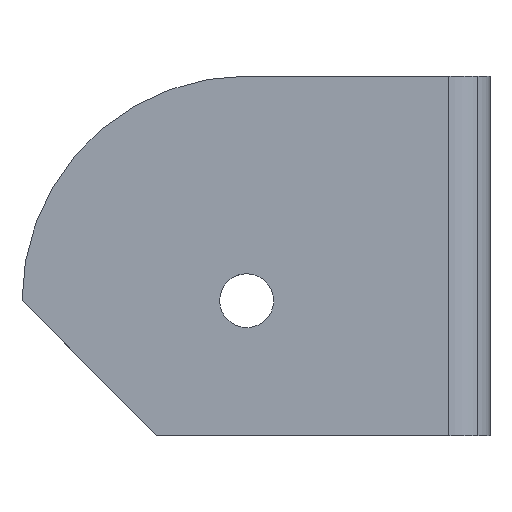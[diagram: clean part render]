
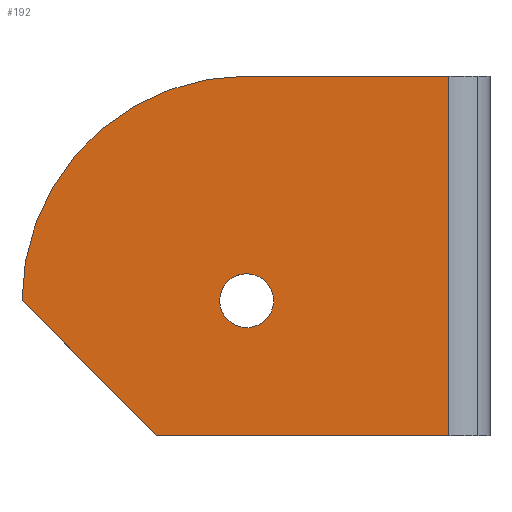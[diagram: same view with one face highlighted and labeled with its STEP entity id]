
A CAD part, top view. The second image highlights one B-rep face of the part: STEP entity #192.
In plain terms, the highlighted planar face has unit normal (0, 0, 1).
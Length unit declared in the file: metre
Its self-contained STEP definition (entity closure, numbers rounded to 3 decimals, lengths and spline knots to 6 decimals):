
#192=ADVANCED_FACE('0:45',(#506,#507),#508,.F.);
#248=EDGE_CURVE('',#598,#599,#600,.T.);
#252=EDGE_CURVE('0:222',#603,#606,#607,.T.);
#340=EDGE_CURVE('0:207',#739,#736,#740,.T.);
#344=EDGE_CURVE('0:213',#603,#744,#745,.T.);
#346=EDGE_CURVE('0:216',#744,#739,#747,.T.);
#348=EDGE_CURVE('0:219',#606,#736,#749,.T.);
#350=EDGE_CURVE('0:228',#751,#598,#752,.T.);
#352=EDGE_CURVE('',#599,#751,#754,.T.);
#506=FACE_OUTER_BOUND('',#999,.T.);
#507=FACE_BOUND('',#1000,.T.);
#508=PLANE('',#1001);
#598=VERTEX_POINT('',#1097);
#599=VERTEX_POINT('',#1098);
#600=CIRCLE('',#1099,0.01524);
#603=VERTEX_POINT('',#1103);
#606=VERTEX_POINT('',#1107);
#607=LINE('',#1108,#1109);
#736=VERTEX_POINT('',#1317);
#739=VERTEX_POINT('',#1322);
#740=LINE('',#1323,#1324);
#744=VERTEX_POINT('',#1331);
#745=LINE('',#1332,#1333);
#747=CIRCLE('',#1336,0.127);
#749=LINE('',#1339,#1340);
#751=VERTEX_POINT('',#1343);
#752=CIRCLE('',#1344,0.01524);
#754=CIRCLE('',#1347,0.01524);
#999=EDGE_LOOP('',(#1666,#1667,#1668,#1669,#1670));
#1000=EDGE_LOOP('',(#1671,#1672,#1673));
#1001=AXIS2_PLACEMENT_3D('',#1674,#1675,#1676);
#1097=CARTESIAN_POINT('',(-0.137776,-0.137776,0.141721));
#1098=CARTESIAN_POINT('',(-0.116224,-0.116224,0.141721));
#1099=AXIS2_PLACEMENT_3D('',#1916,#1917,#1918);
#1103=CARTESIAN_POINT('',(-0.0127,0.0,0.141721));
#1107=CARTESIAN_POINT('',(-0.0127,-0.2032,0.141721));
#1108=CARTESIAN_POINT('',(-0.0127,0.0,0.141721));
#1109=VECTOR('',#1922,1.0);
#1317=CARTESIAN_POINT('',(-0.1778,-0.2032,0.141721));
#1322=CARTESIAN_POINT('',(-0.254,-0.127,0.141721));
#1323=CARTESIAN_POINT('',(-0.17145,-0.20955,0.141721));
#1324=VECTOR('',#2006,1.0);
#1331=CARTESIAN_POINT('',(-0.127,0.,0.141721));
#1332=CARTESIAN_POINT('',(0.03175,0.0,0.141721));
#1333=VECTOR('',#2008,1.0);
#1336=AXIS2_PLACEMENT_3D('',#2009,#2010,#2011);
#1339=CARTESIAN_POINT('',(0.03175,-0.2032,0.141721));
#1340=VECTOR('',#2012,1.0);
#1343=CARTESIAN_POINT('',(-0.127,-0.11176,0.141721));
#1344=AXIS2_PLACEMENT_3D('',#2013,#2014,#2015);
#1347=AXIS2_PLACEMENT_3D('',#2016,#2017,#2018);
#1666=ORIENTED_EDGE('',*,*,#344,.T.);
#1667=ORIENTED_EDGE('',*,*,#346,.T.);
#1668=ORIENTED_EDGE('',*,*,#340,.T.);
#1669=ORIENTED_EDGE('',*,*,#348,.F.);
#1670=ORIENTED_EDGE('',*,*,#252,.F.);
#1671=ORIENTED_EDGE('',*,*,#350,.F.);
#1672=ORIENTED_EDGE('',*,*,#352,.F.);
#1673=ORIENTED_EDGE('',*,*,#248,.F.);
#1674=CARTESIAN_POINT('',(0.127,0.0,0.141721));
#1675=DIRECTION('',(0.0,0.0,-1.0));
#1676=DIRECTION('',(0.707,0.707,0.0));
#1916=CARTESIAN_POINT('',(-0.127,-0.127,0.141721));
#1917=DIRECTION('',(0.0,-0.0,1.0));
#1918=DIRECTION('',(0.707,0.707,0.0));
#1922=DIRECTION('',(0.0,-1.0,0.0));
#2006=DIRECTION('',(0.707,-0.707,0.0));
#2008=DIRECTION('',(-1.0,0.0,0.0));
#2009=CARTESIAN_POINT('',(-0.127,-0.127,0.141721));
#2010=DIRECTION('',(0.0,-0.0,1.0));
#2011=DIRECTION('',(0.707,0.707,0.0));
#2012=DIRECTION('',(-1.0,0.0,0.0));
#2013=CARTESIAN_POINT('',(-0.127,-0.127,0.141721));
#2014=DIRECTION('',(0.0,-0.0,1.0));
#2015=DIRECTION('',(0.707,0.707,0.0));
#2016=CARTESIAN_POINT('',(-0.127,-0.127,0.141721));
#2017=DIRECTION('',(0.0,-0.0,1.0));
#2018=DIRECTION('',(0.707,0.707,0.0));
